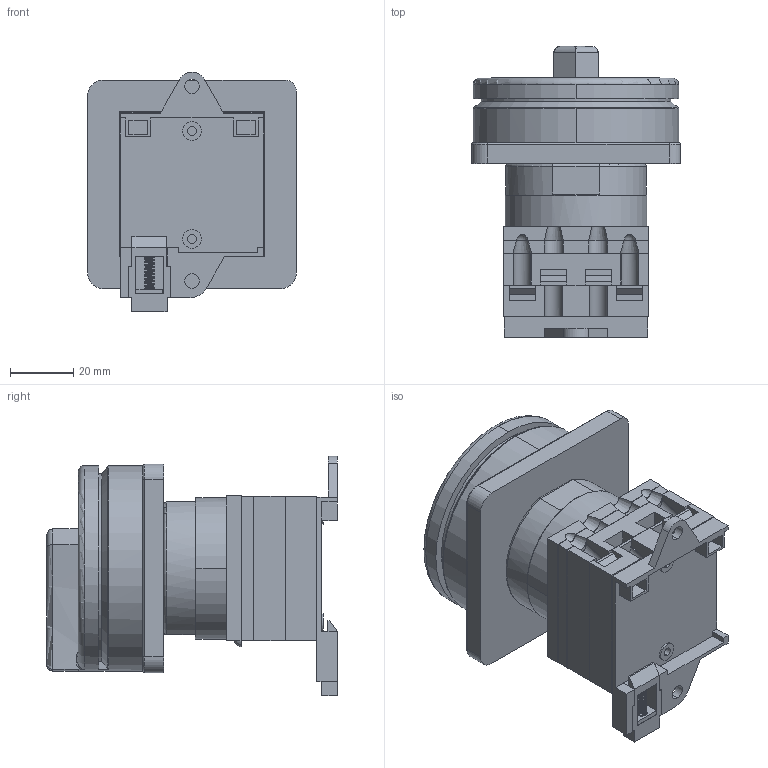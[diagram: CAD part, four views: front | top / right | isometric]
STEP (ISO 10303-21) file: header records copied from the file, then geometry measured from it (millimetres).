
FILE_DESCRIPTION((''),'2;1');
FILE_NAME('PRT0001','2023-08-25T',('xiaokai.shi'),(''),'PRO/ENGINEER BY PARAMETRIC TECHNOLOGY CORPORATION, 2015440','PRO/ENGINEER BY PARAMETRIC TECHNOLOGY CORPORATION, 2015440','');
FILE_SCHEMA(('CONFIG_CONTROL_DESIGN'));
Length unit declared in the file: millimetre
Products named in the file (1): PRT0001
Bounding box: 66 x 92 x 75.83 mm (x, y, z)
Surface area: 53438.8 mm2 (no closed solid volume)
Topology: 0 solids, 7 shells, 595 faces, 1685 edges, 1091 vertices
Faces by surface type: plane 459, cylinder 83, torus 19, bspline 16, cone 9, revolution 9
Entity records: 23246 total; most frequent: CARTESIAN_POINT 7993, ORIENTED_EDGE 3240, DIRECTION 2929, EDGE_CURVE 1678, VECTOR 1294, LINE 1294, VERTEX_POINT 1091, AXIS2_PLACEMENT_3D 813
